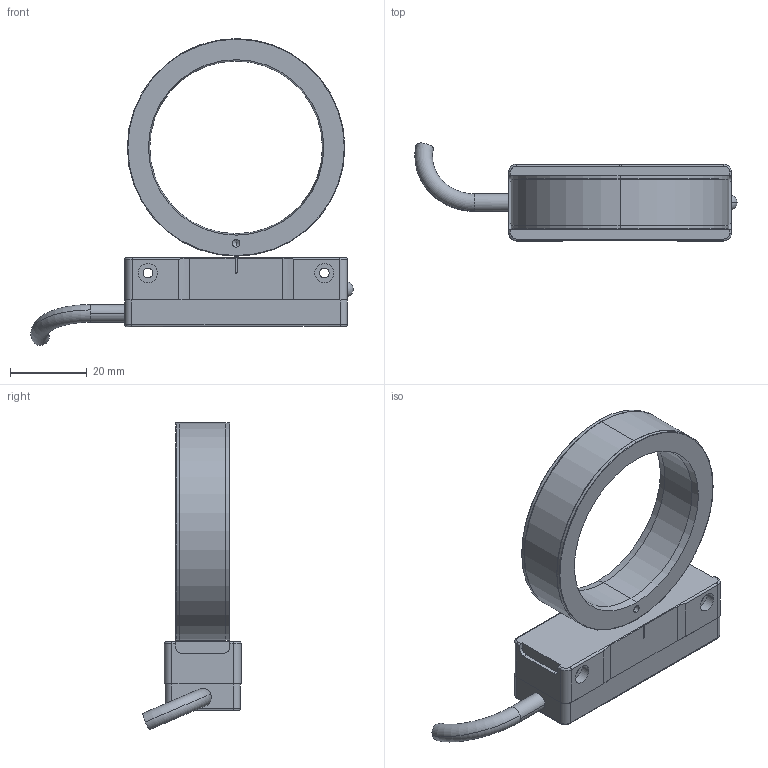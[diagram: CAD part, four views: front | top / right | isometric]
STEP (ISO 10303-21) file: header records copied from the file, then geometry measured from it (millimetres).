
FILE_DESCRIPTION (( 'STEP AP214' ), '1' );
FILE_NAME ('DHRx_SAR057_exposed.STEP', '2024-02-02T13:41:37', ( '' ), ( '' ), 'SwSTEP 2.0', 'SolidWorks 2022', '' );
FILE_SCHEMA (( 'AUTOMOTIVE_DESIGN' ));
Length unit declared in the file: millimetre
Products named in the file (1): DHRx_SAR057_exposed
Bounding box: 83.99 x 25.55 x 79.95 mm (x, y, z)
Volume: 33398.5 mm3; surface area: 12548.7 mm2
Topology: 2 solids, 2 shells, 2087 faces, 5693 edges, 3759 vertices
Faces by surface type: plane 1721, bspline 186, cylinder 128, torus 26, cone 24, sphere 2
Entity records: 95493 total; most frequent: CARTESIAN_POINT 20646, ORIENTED_EDGE 11356, DIRECTION 9479, EDGE_CURVE 5678, LINE 4929, VECTOR 4929, VERTEX_POINT 3758, AXIS2_PLACEMENT_3D 2275
